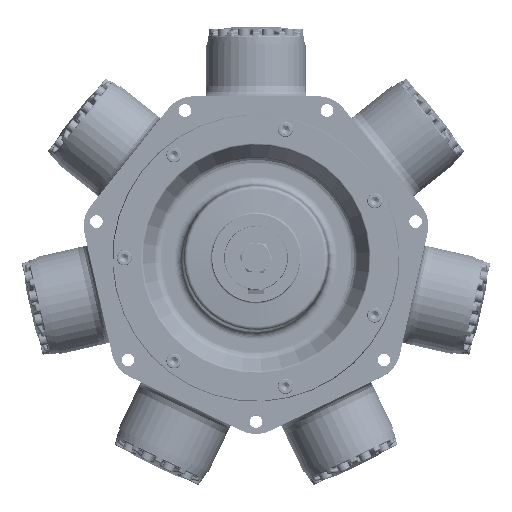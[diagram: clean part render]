
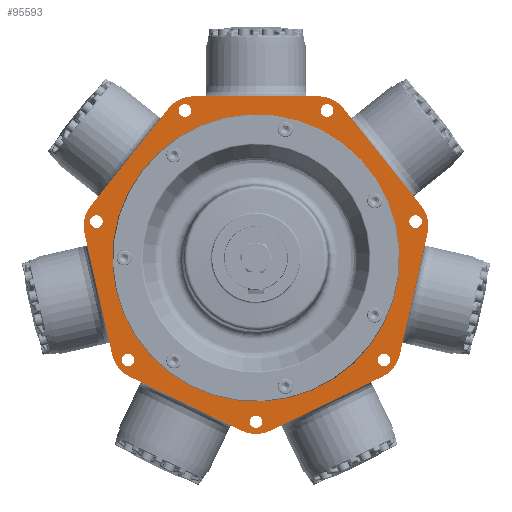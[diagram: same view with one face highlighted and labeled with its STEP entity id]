
A CAD part, top view. The second image highlights one B-rep face of the part: STEP entity #95593.
In plain terms, the highlighted planar face has unit normal (0, 0, 1).
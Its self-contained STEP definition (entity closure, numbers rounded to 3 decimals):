
#1928=FACE_BOUND('',#24128,.T.);
#1929=FACE_BOUND('',#24129,.T.);
#1930=FACE_BOUND('',#24130,.T.);
#1931=FACE_BOUND('',#24131,.T.);
#1932=FACE_BOUND('',#24132,.T.);
#1933=FACE_BOUND('',#24133,.T.);
#1934=FACE_BOUND('',#24134,.T.);
#1935=FACE_BOUND('',#24135,.T.);
#2267=PLANE('',#101705);
#5157=LINE('',#135536,#9647);
#5158=LINE('',#135540,#9648);
#5159=LINE('',#135544,#9649);
#5160=LINE('',#135548,#9650);
#5161=LINE('',#135552,#9651);
#5162=LINE('',#135556,#9652);
#5163=LINE('',#135560,#9653);
#9647=VECTOR('',#109779,10.);
#9648=VECTOR('',#109782,10.);
#9649=VECTOR('',#109785,10.);
#9650=VECTOR('',#109788,10.);
#9651=VECTOR('',#109791,10.);
#9652=VECTOR('',#109794,10.);
#9653=VECTOR('',#109797,10.);
#14317=CIRCLE('',#101706,50.8);
#14318=CIRCLE('',#101707,50.8);
#14319=CIRCLE('',#101708,50.8);
#14320=CIRCLE('',#101709,50.8);
#14321=CIRCLE('',#101710,50.8);
#14322=CIRCLE('',#101711,50.8);
#14323=CIRCLE('',#101712,50.8);
#14324=CIRCLE('',#101713,10.);
#14325=CIRCLE('',#101714,10.);
#14326=CIRCLE('',#101715,10.);
#14327=CIRCLE('',#101716,10.);
#14328=CIRCLE('',#101717,10.);
#14329=CIRCLE('',#101718,10.);
#14330=CIRCLE('',#101719,10.);
#14331=CIRCLE('',#101720,228.555);
#18049=FACE_OUTER_BOUND('',#24127,.T.);
#24127=EDGE_LOOP('',(#58564,#58565,#58566,#58567,#58568,#58569,#58570,#58571,
#58572,#58573,#58574,#58575,#58576,#58577));
#24128=EDGE_LOOP('',(#58578));
#24129=EDGE_LOOP('',(#58579));
#24130=EDGE_LOOP('',(#58580));
#24131=EDGE_LOOP('',(#58581));
#24132=EDGE_LOOP('',(#58582));
#24133=EDGE_LOOP('',(#58583));
#24134=EDGE_LOOP('',(#58584));
#24135=EDGE_LOOP('',(#58585));
#35503=VERTEX_POINT('',#135534);
#35504=VERTEX_POINT('',#135535);
#35505=VERTEX_POINT('',#135537);
#35506=VERTEX_POINT('',#135539);
#35507=VERTEX_POINT('',#135541);
#35508=VERTEX_POINT('',#135543);
#35509=VERTEX_POINT('',#135545);
#35510=VERTEX_POINT('',#135547);
#35511=VERTEX_POINT('',#135549);
#35512=VERTEX_POINT('',#135551);
#35513=VERTEX_POINT('',#135553);
#35514=VERTEX_POINT('',#135555);
#35515=VERTEX_POINT('',#135557);
#35516=VERTEX_POINT('',#135559);
#35517=VERTEX_POINT('',#135562);
#35518=VERTEX_POINT('',#135564);
#35519=VERTEX_POINT('',#135566);
#35520=VERTEX_POINT('',#135568);
#35521=VERTEX_POINT('',#135570);
#35522=VERTEX_POINT('',#135572);
#35523=VERTEX_POINT('',#135574);
#35524=VERTEX_POINT('',#135576);
#44146=EDGE_CURVE('',#35503,#35504,#5157,.T.);
#44147=EDGE_CURVE('',#35505,#35503,#14317,.T.);
#44148=EDGE_CURVE('',#35506,#35505,#5158,.T.);
#44149=EDGE_CURVE('',#35507,#35506,#14318,.T.);
#44150=EDGE_CURVE('',#35508,#35507,#5159,.T.);
#44151=EDGE_CURVE('',#35509,#35508,#14319,.T.);
#44152=EDGE_CURVE('',#35510,#35509,#5160,.T.);
#44153=EDGE_CURVE('',#35511,#35510,#14320,.T.);
#44154=EDGE_CURVE('',#35512,#35511,#5161,.T.);
#44155=EDGE_CURVE('',#35513,#35512,#14321,.T.);
#44156=EDGE_CURVE('',#35514,#35513,#5162,.T.);
#44157=EDGE_CURVE('',#35515,#35514,#14322,.T.);
#44158=EDGE_CURVE('',#35516,#35515,#5163,.T.);
#44159=EDGE_CURVE('',#35504,#35516,#14323,.T.);
#44160=EDGE_CURVE('',#35517,#35517,#14324,.T.);
#44161=EDGE_CURVE('',#35518,#35518,#14325,.T.);
#44162=EDGE_CURVE('',#35519,#35519,#14326,.T.);
#44163=EDGE_CURVE('',#35520,#35520,#14327,.T.);
#44164=EDGE_CURVE('',#35521,#35521,#14328,.T.);
#44165=EDGE_CURVE('',#35522,#35522,#14329,.T.);
#44166=EDGE_CURVE('',#35523,#35523,#14330,.T.);
#44167=EDGE_CURVE('',#35524,#35524,#14331,.T.);
#58564=ORIENTED_EDGE('',*,*,#44146,.F.);
#58565=ORIENTED_EDGE('',*,*,#44147,.F.);
#58566=ORIENTED_EDGE('',*,*,#44148,.F.);
#58567=ORIENTED_EDGE('',*,*,#44149,.F.);
#58568=ORIENTED_EDGE('',*,*,#44150,.F.);
#58569=ORIENTED_EDGE('',*,*,#44151,.F.);
#58570=ORIENTED_EDGE('',*,*,#44152,.F.);
#58571=ORIENTED_EDGE('',*,*,#44153,.F.);
#58572=ORIENTED_EDGE('',*,*,#44154,.F.);
#58573=ORIENTED_EDGE('',*,*,#44155,.F.);
#58574=ORIENTED_EDGE('',*,*,#44156,.F.);
#58575=ORIENTED_EDGE('',*,*,#44157,.F.);
#58576=ORIENTED_EDGE('',*,*,#44158,.F.);
#58577=ORIENTED_EDGE('',*,*,#44159,.F.);
#58578=ORIENTED_EDGE('',*,*,#44160,.T.);
#58579=ORIENTED_EDGE('',*,*,#44161,.T.);
#58580=ORIENTED_EDGE('',*,*,#44162,.T.);
#58581=ORIENTED_EDGE('',*,*,#44163,.T.);
#58582=ORIENTED_EDGE('',*,*,#44164,.T.);
#58583=ORIENTED_EDGE('',*,*,#44165,.T.);
#58584=ORIENTED_EDGE('',*,*,#44166,.T.);
#58585=ORIENTED_EDGE('',*,*,#44167,.F.);
#95593=ADVANCED_FACE('',(#18049,#1928,#1929,#1930,#1931,#1932,#1933,#1934,
#1935),#2267,.F.);
#101705=AXIS2_PLACEMENT_3D('',#135533,#109777,#109778);
#101706=AXIS2_PLACEMENT_3D('',#135538,#109780,#109781);
#101707=AXIS2_PLACEMENT_3D('',#135542,#109783,#109784);
#101708=AXIS2_PLACEMENT_3D('',#135546,#109786,#109787);
#101709=AXIS2_PLACEMENT_3D('',#135550,#109789,#109790);
#101710=AXIS2_PLACEMENT_3D('',#135554,#109792,#109793);
#101711=AXIS2_PLACEMENT_3D('',#135558,#109795,#109796);
#101712=AXIS2_PLACEMENT_3D('',#135561,#109798,#109799);
#101713=AXIS2_PLACEMENT_3D('',#135563,#109800,#109801);
#101714=AXIS2_PLACEMENT_3D('',#135565,#109802,#109803);
#101715=AXIS2_PLACEMENT_3D('',#135567,#109804,#109805);
#101716=AXIS2_PLACEMENT_3D('',#135569,#109806,#109807);
#101717=AXIS2_PLACEMENT_3D('',#135571,#109808,#109809);
#101718=AXIS2_PLACEMENT_3D('',#135573,#109810,#109811);
#101719=AXIS2_PLACEMENT_3D('',#135575,#109812,#109813);
#101720=AXIS2_PLACEMENT_3D('',#135577,#109814,#109815);
#109777=DIRECTION('center_axis',(0.,0.,-1.));
#109778=DIRECTION('ref_axis',(-1.,0.,0.));
#109779=DIRECTION('',(0.623,0.782,0.));
#109780=DIRECTION('center_axis',(0.,0.,-1.));
#109781=DIRECTION('ref_axis',(-0.975,-0.223,0.));
#109782=DIRECTION('',(-0.223,0.975,0.));
#109783=DIRECTION('center_axis',(0.,0.,-1.));
#109784=DIRECTION('ref_axis',(-0.434,-0.901,0.));
#109785=DIRECTION('',(-0.901,0.434,0.));
#109786=DIRECTION('center_axis',(0.,0.,-1.));
#109787=DIRECTION('ref_axis',(0.434,-0.901,0.));
#109788=DIRECTION('',(-0.901,-0.434,0.));
#109789=DIRECTION('center_axis',(0.,0.,-1.));
#109790=DIRECTION('ref_axis',(0.975,-0.223,0.));
#109791=DIRECTION('',(-0.223,-0.975,0.));
#109792=DIRECTION('center_axis',(0.,0.,-1.));
#109793=DIRECTION('ref_axis',(0.782,0.623,0.));
#109794=DIRECTION('',(0.623,-0.782,0.));
#109795=DIRECTION('center_axis',(0.,0.,-1.));
#109796=DIRECTION('ref_axis',(0.,1.,0.));
#109797=DIRECTION('',(1.,0.,0.));
#109798=DIRECTION('center_axis',(0.,0.,-1.));
#109799=DIRECTION('ref_axis',(-0.782,0.623,0.));
#109800=DIRECTION('center_axis',(0.,0.,-1.));
#109801=DIRECTION('ref_axis',(1.,0.,0.));
#109802=DIRECTION('center_axis',(0.,0.,-1.));
#109803=DIRECTION('ref_axis',(1.,0.,0.));
#109804=DIRECTION('center_axis',(0.,0.,-1.));
#109805=DIRECTION('ref_axis',(1.,0.,0.));
#109806=DIRECTION('center_axis',(0.,0.,-1.));
#109807=DIRECTION('ref_axis',(1.,0.,0.));
#109808=DIRECTION('center_axis',(0.,0.,-1.));
#109809=DIRECTION('ref_axis',(1.,0.,0.));
#109810=DIRECTION('center_axis',(0.,0.,-1.));
#109811=DIRECTION('ref_axis',(1.,0.,0.));
#109812=DIRECTION('center_axis',(0.,0.,-1.));
#109813=DIRECTION('ref_axis',(1.,0.,0.));
#109814=DIRECTION('center_axis',(0.,0.,
1.));
#109815=DIRECTION('ref_axis',(0.223,-0.975,0.));
#135533=CARTESIAN_POINT('Origin',(0.,439.494,-6.59));
#135534=CARTESIAN_POINT('',(-263.033,82.644,-6.59));
#135535=CARTESIAN_POINT('',(-139.102,238.048,-6.59));
#135536=CARTESIAN_POINT('',(-62.966,333.52,-6.59));
#135537=CARTESIAN_POINT('',(-272.842,39.666,-6.59));
#135538=CARTESIAN_POINT('Origin',(-223.316,50.97,-6.59));
#135539=CARTESIAN_POINT('',(-228.612,-154.12,-6.59));
#135540=CARTESIAN_POINT('',(-309.457,200.086,-6.59));
#135541=CARTESIAN_POINT('',(-201.127,-188.585,-6.59));
#135542=CARTESIAN_POINT('Origin',(-179.086,-142.816,-6.59));
#135543=CARTESIAN_POINT('',(-22.041,-274.828,-6.59));
#135544=CARTESIAN_POINT('',(-242.258,-168.777,-6.59));
#135545=CARTESIAN_POINT('',(22.041,-274.828,-6.59));
#135546=CARTESIAN_POINT('Origin',(0.,-229.059,
-6.59));
#135547=CARTESIAN_POINT('',(201.127,-188.585,-6.59));
#135548=CARTESIAN_POINT('',(152.715,-211.899,-6.59));
#135549=CARTESIAN_POINT('',(228.612,-154.12,-6.59));
#135550=CARTESIAN_POINT('Origin',(179.086,-142.816,-6.59));
#135551=CARTESIAN_POINT('',(272.842,39.666,-6.59));
#135552=CARTESIAN_POINT('',(287.342,103.193,-6.59));
#135553=CARTESIAN_POINT('',(263.033,82.644,-6.59));
#135554=CARTESIAN_POINT('Origin',(223.316,50.97,-6.59));
#135555=CARTESIAN_POINT('',(139.102,238.048,-6.59));
#135556=CARTESIAN_POINT('',(124.931,255.818,-6.59));
#135557=CARTESIAN_POINT('',(99.385,257.175,-6.59));
#135558=CARTESIAN_POINT('Origin',(99.385,206.375,-6.59));
#135559=CARTESIAN_POINT('',(-99.385,257.175,-6.59));
#135560=CARTESIAN_POINT('',(49.692,257.175,-6.59));
#135561=CARTESIAN_POINT('Origin',(-99.385,206.375,-6.59));
#135562=CARTESIAN_POINT('',(-10.,-260.35,-6.59));
#135563=CARTESIAN_POINT('Origin',(0.,-260.35,-6.59));
#135564=CARTESIAN_POINT('',(243.822,57.933,-6.59));
#135565=CARTESIAN_POINT('Origin',(253.822,57.933,-6.59));
#135566=CARTESIAN_POINT('',(-263.822,57.933,-6.59));
#135567=CARTESIAN_POINT('Origin',(-253.822,57.933,-6.59));
#135568=CARTESIAN_POINT('',(193.55,-162.326,-6.59));
#135569=CARTESIAN_POINT('Origin',(203.55,-162.326,-6.59));
#135570=CARTESIAN_POINT('',(102.962,234.567,-6.59));
#135571=CARTESIAN_POINT('Origin',(112.962,234.567,-6.59));
#135572=CARTESIAN_POINT('',(-122.962,234.567,-6.59));
#135573=CARTESIAN_POINT('Origin',(-112.962,234.567,-6.59));
#135574=CARTESIAN_POINT('',(-213.55,-162.326,-6.59));
#135575=CARTESIAN_POINT('Origin',(-203.55,-162.326,-6.59));
#135576=CARTESIAN_POINT('',(222.825,50.858,-6.59));
#135577=CARTESIAN_POINT('Origin',(0.,0.,
-6.59));
